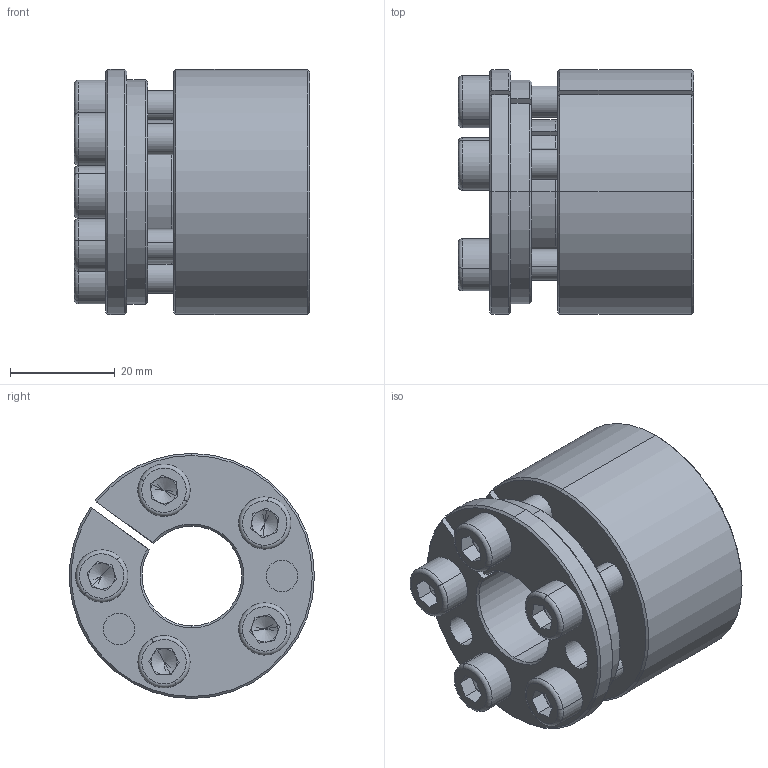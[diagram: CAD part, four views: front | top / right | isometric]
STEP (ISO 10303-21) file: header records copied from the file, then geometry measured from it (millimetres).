
FILE_DESCRIPTION (( 'STEP AP214' ), '1' );
FILE_NAME ('PL-H2 19-47.STEP', '2022-07-25T01:46:46', ( '' ), ( '' ), 'SwSTEP 2.0', 'SolidWorks 2022', '' );
FILE_SCHEMA (( 'AUTOMOTIVE_DESIGN' ));
Length unit declared in the file: millimetre
Products named in the file (5): hexagon socket head cap screws gb_M6×25-12.9; 錨璃1^PL-H2 蚾饜芞; PL-H2 19-47; PL-H2-外环（设计图）_PL-H2-47; PL-H2-内环（设计图）_PL-H2-19-47
Assembly tree (8 placements, depth 2):
  PL-H2 19-47
    PL-H2-内环（设计图）_PL-H2-19-47
    PL-H2-外环（设计图）_PL-H2-47
    hexagon socket head cap screws gb_M6×25-12.9  x5
    錨璃1^PL-H2 蚾饜芞
Bounding box: 45 x 46.86 x 46.92 mm (x, y, z)
Volume: 96222.9 mm3; surface area: 42397.8 mm2
Topology: 8 solids, 8 shells, 418 faces, 1012 edges, 620 vertices
Faces by surface type: plane 168, cylinder 118, cone 112, torus 20
Entity records: 9746 total; most frequent: DIRECTION 1762, CARTESIAN_POINT 1737, ORIENTED_EDGE 1552, EDGE_CURVE 776, AXIS2_PLACEMENT_3D 705, VERTEX_POINT 488, EDGE_LOOP 378, CIRCLE 376
